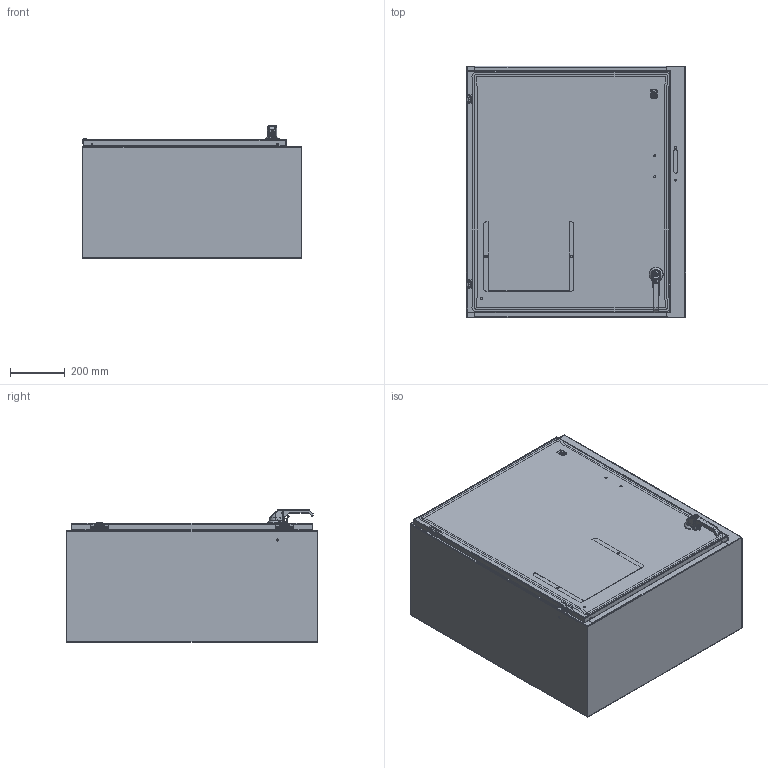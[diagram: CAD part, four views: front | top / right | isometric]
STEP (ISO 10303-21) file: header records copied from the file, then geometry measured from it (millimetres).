
FILE_DESCRIPTION((''),'2;1');
FILE_NAME('MODEL-313_ASM','2023-08-16T10:18:18',('johnh'),('SAGINAW CONTROL & ENGINEERING'),'CREO PARAMETRIC BY PTC INC, 2021284','CREO PARAMETRIC BY PTC INC, 2021284','');
FILE_SCHEMA(('AUTOMOTIVE_DESIGN { 1 0 10303 214 1 1 1 1 }'));
Length unit declared in the file: inch
Products named in the file (48): MODEL-313-BDY; MODEL-313-TP; MODEL-313-BTM; MODEL-313-DR; 100837; 100882; 111267; 100953_HANDLE; 100953_HANDLE_INSERT; 100953_SHAFT_CAM; 100953_ADAPTER_CAM; 100953_NUT_CAM; 100953_BASE; 100953_O-RING; 100953_WASHER_SEALING; 100953_NUT_MOUNTING_LARGE; 100953_NUT_MOUNTING_SMALL; 100953_SCREW_SMALL; 100953_INSERT; 100953_PADLOCK_CATCH; 100953_ASM; 128142; 100030; 128142_ASM; MODEL-313-ROD-UPR; 128146; 128145; 128144; 102482; MODEL-313-ROD-UPR_ASM; 128143; 112504; MODEL-313-GSKT; 126391; 126391_ASM; 126393; 102483; 101226; 101376; 102140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
Assembly tree (78 placements, depth 4):
  MODEL-313_ASM
    MODEL-313-BDY
    MODEL-313-TP
    MODEL-313-BTM
    MODEL-313-DOOR-ASSY_ASM
      MODEL-313-DR
      100837  x6
      100882  x3
      111267
      100953_ASM
        100953_HANDLE
        100953_HANDLE_INSERT
        100953_SHAFT_CAM
        100953_ADAPTER_CAM
        100953_NUT_CAM
        100953_BASE
        100953_O-RING
        100953_WASHER_SEALING
        100953_NUT_MOUNTING_LARGE
        100953_NUT_MOUNTING_SMALL
        100953_SCREW_SMALL
        100953_INSERT
        100953_PADLOCK_CATCH
      128142_ASM
        128142
        100030  x2
      MODEL-313-ROD-UPR_ASM
        MODEL-313-ROD-UPR
        128146
        128145
        128144
        102482  x2
      128143
      112504
      MODEL-313-GSKT
      126391_ASM  x2
        126391
      126393  x2
      102483  x6
      101226  x2
      101376  x2
      102140  x2
    100837  x2
    101653  x6
    103357
    122192
    SUBPANEL-SUBASSEMBLY_ASM
      SUBPANEL
      100904  x6
Bounding box: 796.92 x 914.4 x 483.53 mm (x, y, z)
Volume: 8424092.2 mm3; surface area: 7738575.8 mm2
Topology: 72 solids, 72 shells, 5239 faces, 13296 edges, 8215 vertices
Faces by surface type: plane 1818, cylinder 1424, bspline 890, cone 533, torus 408, sphere 166
Entity records: 200382 total; most frequent: CARTESIAN_POINT 70970, ORIENTED_EDGE 19784, DIRECTION 18115, PRESENTATION_STYLE_ASSIGNMENT 10078, STYLED_ITEM 9932, CURVE_STYLE 9892, EDGE_CURVE 9892, AXIS2_PLACEMENT_3D 6791
